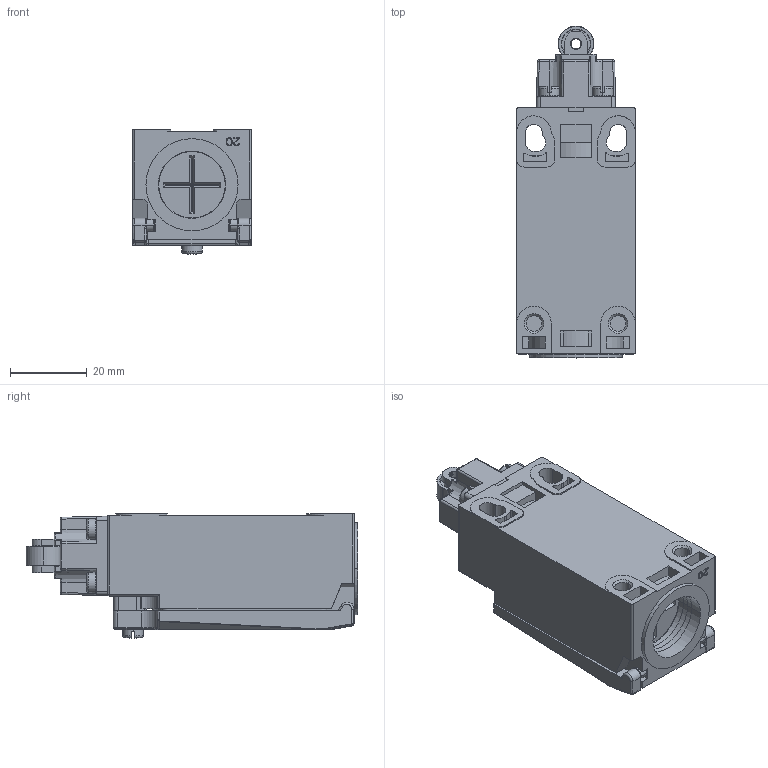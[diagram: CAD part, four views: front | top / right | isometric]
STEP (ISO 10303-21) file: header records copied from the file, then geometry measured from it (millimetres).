
FILE_DESCRIPTION(/* description */ (''),/* implementation_level */ '2;1');
FILE_NAME(/* name */ 'ALS3-P...A3.stp',/* time_stamp */ '2022-04-21T15:05:27+08:00',/* author */ (''),/* organization */ (''),/* preprocessor_version */ 'ST-DEVELOPER v16.7',/* originating_system */ 'SIEMENS PLM Software NX 12.0',/* authorisation */ '');
FILE_SCHEMA (('AUTOMOTIVE_DESIGN { 1 0 10303 214 3 1 1 1 }'));
Length unit declared in the file: millimetre
Products named in the file (11): 4132轮子齿形弹簧销; 4132塑料轮; 4132头部轮子架; 4132头部基座; M3X9; 20210810COVER_BODY; 基座; 尾塞; 4132轮子组件; D4N-4132头部组件; ALS3-P...A3_stp
Assembly tree (14 placements, depth 4):
  ALS3-P...A3_stp
    尾塞
    基座
    20210810COVER_BODY
    M3X9
    D4N-4132头部组件
      4132头部基座
      4132轮子组件
        4132头部轮子架
        4132塑料轮
        4132轮子齿形弹簧销
      M3X9  x4
Bounding box: 31 x 86.45 x 32.37 mm (x, y, z)
Volume: 25944.9 mm3; surface area: 27607.9 mm2
Topology: 12 solids, 12 shells, 1372 faces, 3691 edges, 2355 vertices
Faces by surface type: plane 693, cylinder 342, cone 112, bspline 99, torus 86, sphere 40
Entity records: 44453 total; most frequent: CARTESIAN_POINT 13198, ORIENTED_EDGE 6718, DIRECTION 6189, EDGE_CURVE 3359, VERTEX_POINT 2155, AXIS2_PLACEMENT_3D 2119, LINE 1951, VECTOR 1951
